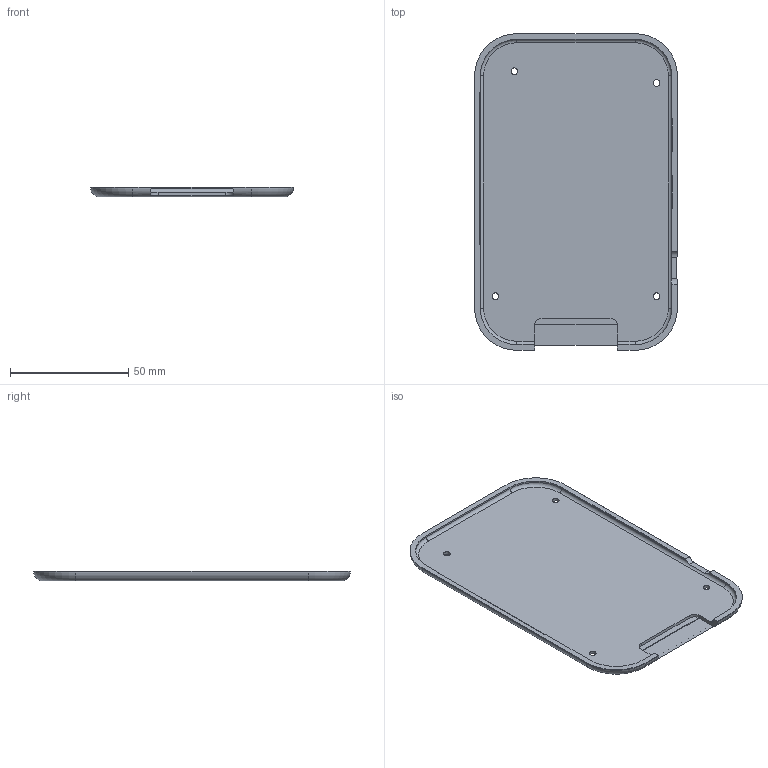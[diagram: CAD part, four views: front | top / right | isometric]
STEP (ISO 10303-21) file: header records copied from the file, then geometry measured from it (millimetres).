
FILE_DESCRIPTION(('Open CASCADE Model'),'2;1');
FILE_NAME('Open CASCADE Shape Model','2026-09-06T11:38:52',('Author'),( 'Open CASCADE'),'Open CASCADE STEP processor 7.7','Open CASCADE 7.7' ,'Unknown');
FILE_SCHEMA(('AUTOMOTIVE_DESIGN { 1 0 10303 214 1 1 1 1 }'));
Length unit declared in the file: millimetre
Products named in the file (1): Open CASCADE STEP translator 7.7 11
Bounding box: 85.6 x 133.6 x 4.1 mm (x, y, z)
Volume: 21569.2 mm3; surface area: 23833.4 mm2
Topology: 1 solids, 1 shells, 85 faces, 218 edges, 140 vertices
Faces by surface type: cylinder 39, plane 38, torus 8
Full cylindrical faces by diameter (mm): 2.8 x4, 5.3 x4
Entity records: 5657 total; most frequent: CARTESIAN_POINT 1305, DIRECTION 819, LINE 437, VECTOR 437, ORIENTED_EDGE 436, PCURVE 436, DEFINITIONAL_REPRESENTATION 436, EDGE_CURVE 218
